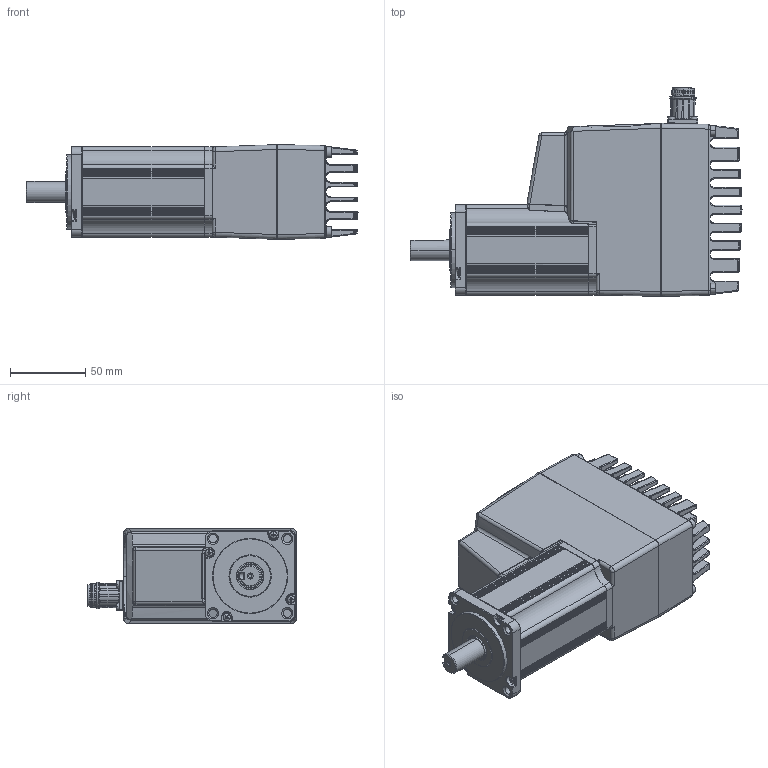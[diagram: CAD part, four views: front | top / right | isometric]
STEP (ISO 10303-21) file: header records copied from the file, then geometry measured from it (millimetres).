
FILE_DESCRIPTION((''),'2;1');
FILE_NAME('STEPPERASSY_ASM','2022-07-07T21:15:27',('Administrator'),(''),'CREO PARAMETRIC BY PTC INC, 2022014','CREO PARAMETRIC BY PTC INC, 2022014','');
FILE_SCHEMA(('AUTOMOTIVE_DESIGN { 1 0 10303 214 1 1 1 1 }'));
Products named in the file (8): NEW_REAR_PART; 402_F; SHAFT_KEY; NEW_CONNECTORS; FINS_BOLT_NEW; 402_BEARING; MAC400_ASM; STEPPERASSY_ASM
Assembly tree (10 placements, depth 3):
  STEPPERASSY_ASM
    MAC400_ASM
      NEW_REAR_PART
      402_F
      SHAFT_KEY
      NEW_CONNECTORS
      FINS_BOLT_NEW  x4
      402_BEARING
Bounding box: 221 x 138.87 x 63 mm (x, y, z)
Volume: 902926.2 mm3; surface area: 138720.7 mm2
Topology: 9 solids, 13 shells, 3225 faces, 8066 edges, 4756 vertices
Faces by surface type: cylinder 1193, plane 913, bspline 488, torus 246, sphere 211, cone 168, extrusion 6
Entity records: 157034 total; most frequent: CARTESIAN_POINT 56268, ORIENTED_EDGE 15458, DIRECTION 13515, PRESENTATION_STYLE_ASSIGNMENT 8227, STYLED_ITEM 7790, CURVE_STYLE 7784, EDGE_CURVE 7729, AXIS2_PLACEMENT_3D 5264
